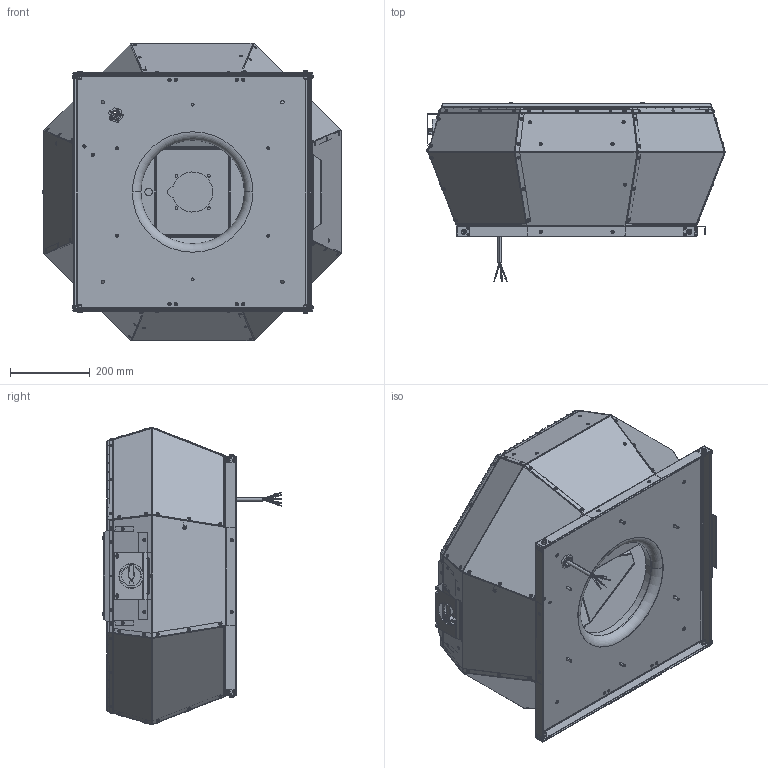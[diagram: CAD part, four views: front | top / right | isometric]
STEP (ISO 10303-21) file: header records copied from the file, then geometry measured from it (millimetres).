
FILE_DESCRIPTION (( 'STEP AP203' ), '1' );
FILE_NAME ('139317-00_DVA400E4P31.STEP', '2017-03-31T06:30:40', ( '' ), ( '' ), 'SwSTEP 2.0', 'SolidWorks 2012', '' );
FILE_SCHEMA (( 'CONFIG_CONTROL_DESIGN' ));
Length unit declared in the file: millimetre
Products named in the file (1): 139317-00_DVA400E4P31
Bounding box: 748.09 x 449.44 x 745.14 mm (x, y, z)
Surface area: 3528734.1 mm2 (no closed solid volume)
Topology: 0 solids, 293 shells, 3505 faces, 12069 edges, 8325 vertices
Faces by surface type: plane 2225, cylinder 735, torus 427, bspline 86, cone 30, sphere 2
Entity records: 134972 total; most frequent: CARTESIAN_POINT 29741, DIRECTION 21419, ORIENTED_EDGE 19731, EDGE_CURVE 12067, VERTEX_POINT 8325, VECTOR 8077, LINE 8077, AXIS2_PLACEMENT_3D 6671
